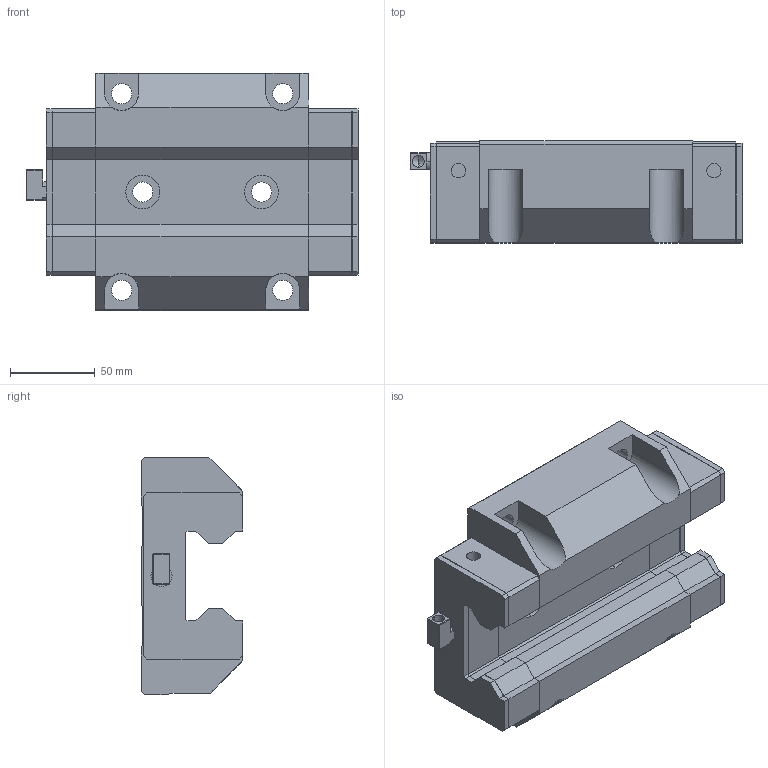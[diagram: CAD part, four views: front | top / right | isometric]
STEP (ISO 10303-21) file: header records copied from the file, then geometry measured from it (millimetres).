
FILE_DESCRIPTION (( 'STEP AP203' ), '1' );
FILE_NAME ('SGW55CC.STEP', '2025-07-11T04:58:42', ( 'Owner' ), ( 'Organization' ), 'SwSTEP 2.0', 'SolidWorks 2020', '' );
FILE_SCHEMA (( 'CONFIG_CONTROL_DESIGN' ));
Length unit declared in the file: millimetre
Products named in the file (1): SGW55CC
Bounding box: 195.7 x 60 x 140 mm (x, y, z)
Volume: 971988.9 mm3; surface area: 138796.8 mm2
Topology: 7 solids, 7 shells, 319 faces, 790 edges, 501 vertices
Faces by surface type: plane 257, cylinder 58, cone 4
Entity records: 9355 total; most frequent: CARTESIAN_POINT 1651, ORIENTED_EDGE 1576, DIRECTION 1534, EDGE_CURVE 788, LINE 654, VECTOR 654, VERTEX_POINT 501, AXIS2_PLACEMENT_3D 440
